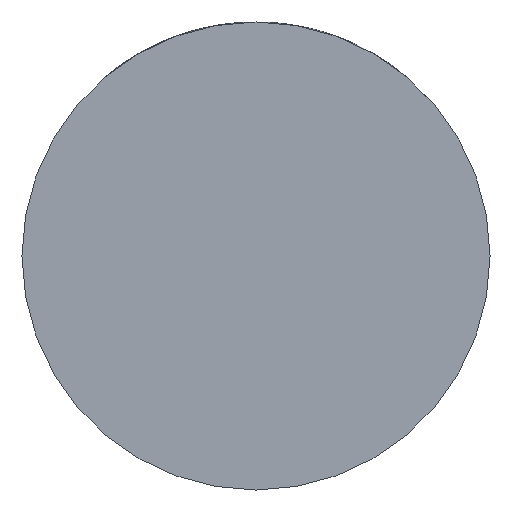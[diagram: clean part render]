
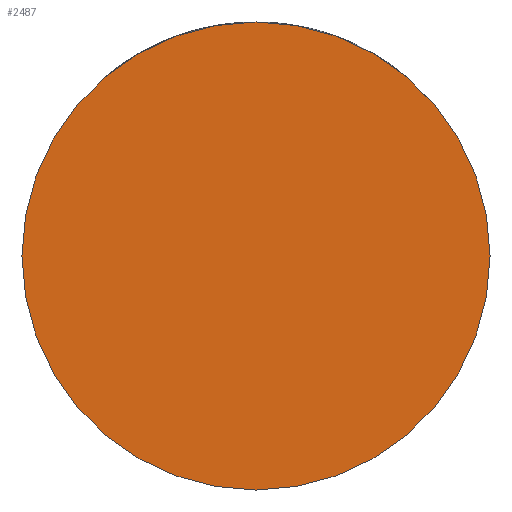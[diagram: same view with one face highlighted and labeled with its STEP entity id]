
A CAD part, front view. The second image highlights one B-rep face of the part: STEP entity #2487.
In plain terms, the highlighted planar face has unit normal (0, -1, 0).
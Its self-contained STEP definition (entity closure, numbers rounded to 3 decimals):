
#118 = EDGE_CURVE ( 'NONE', #3109, #2648, #3984, .T. ) ;
#261 = CARTESIAN_POINT ( 'NONE',  ( -29.5, -33., 0. ) ) ;
#583 = ORIENTED_EDGE ( 'NONE', *, *, #118, .T. ) ;
#621 = DIRECTION ( 'NONE',  ( 1., 0., 0. ) ) ;
#626 = AXIS2_PLACEMENT_3D ( 'NONE', #2395, #4053, #621 ) ;
#714 = FACE_OUTER_BOUND ( 'NONE', #3054, .T. ) ;
#1598 = EDGE_CURVE ( 'NONE', #2648, #3109, #4149, .T. ) ;
#1739 = CARTESIAN_POINT ( 'NONE',  ( 29.5, -33., 0. ) ) ;
#1934 = DIRECTION ( 'NONE',  ( 0., -1., 0. ) ) ;
#2094 = CARTESIAN_POINT ( 'NONE',  ( 0., -33., 0. ) ) ;
#2117 = DIRECTION ( 'NONE',  ( 0., -1., 0. ) ) ;
#2288 = AXIS2_PLACEMENT_3D ( 'NONE', #2094, #2117, #3408 ) ;
#2395 = CARTESIAN_POINT ( 'NONE',  ( 0., -33., 0. ) ) ;
#2487 = ADVANCED_FACE ( 'NONE', ( #714 ), #2803, .T. ) ;
#2648 = VERTEX_POINT ( 'NONE', #1739 ) ;
#2803 = PLANE ( 'NONE',  #2288 ) ;
#2907 = DIRECTION ( 'NONE',  ( 1., 0., 0. ) ) ;
#3054 = EDGE_LOOP ( 'NONE', ( #583, #3775 ) ) ;
#3109 = VERTEX_POINT ( 'NONE', #261 ) ;
#3408 = DIRECTION ( 'NONE',  ( 1., 0., 0. ) ) ;
#3775 = ORIENTED_EDGE ( 'NONE', *, *, #1598, .T. ) ;
#3931 = AXIS2_PLACEMENT_3D ( 'NONE', #3949, #1934, #2907 ) ;
#3949 = CARTESIAN_POINT ( 'NONE',  ( 0., -33., 0. ) ) ;
#3984 = CIRCLE ( 'NONE', #626, 29.5 ) ;
#4053 = DIRECTION ( 'NONE',  ( 0., -1., 0. ) ) ;
#4149 = CIRCLE ( 'NONE', #3931, 29.5 ) ;
